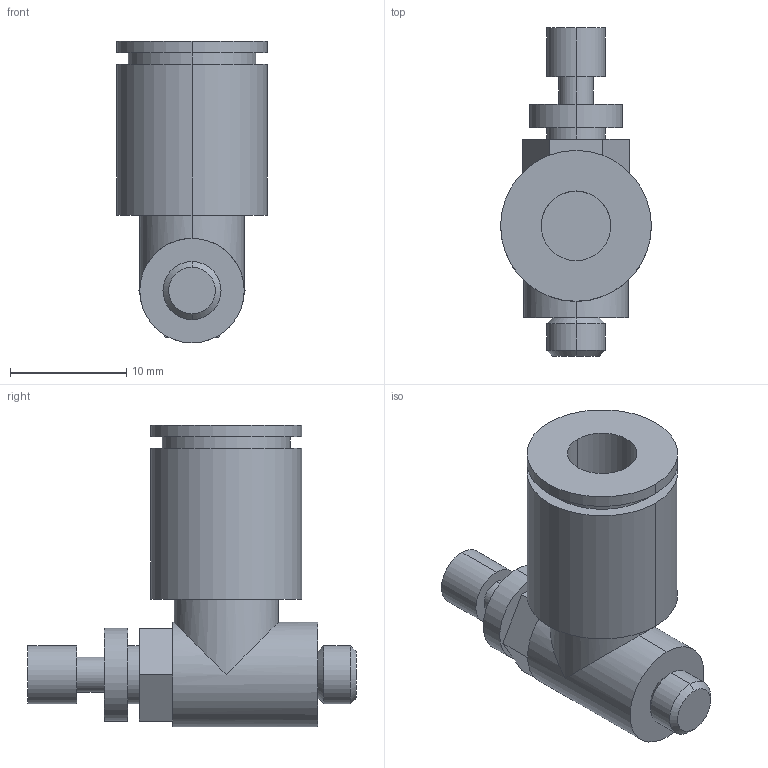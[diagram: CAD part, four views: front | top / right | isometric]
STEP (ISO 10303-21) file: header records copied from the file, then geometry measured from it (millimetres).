
FILE_DESCRIPTION( ( '' ), '1' );
FILE_NAME( 'G:/SMC狟婥/AS1201F-M5-06A.stp', '2023-03-07T03:43:14', ( '' ), ( '' ), ' ', ' ', ' ' );
FILE_SCHEMA( ( 'CONFIG_CONTROL_DESIGN' ) );
Length unit declared in the file: millimetre
Products named in the file (1): 1
Bounding box: 13 x 28.3 x 26 mm (x, y, z)
Volume: 2879.9 mm3; surface area: 2084.2 mm2
Topology: 1 solids, 1 shells, 56 faces, 119 edges, 74 vertices
Faces by surface type: plane 30, cylinder 22, cone 4
Entity records: 1561 total; most frequent: DIRECTION 295, CARTESIAN_POINT 250, ORIENTED_EDGE 238, AXIS2_PLACEMENT_3D 119, EDGE_CURVE 119, VERTEX_POINT 74, EDGE_LOOP 65, CIRCLE 58
